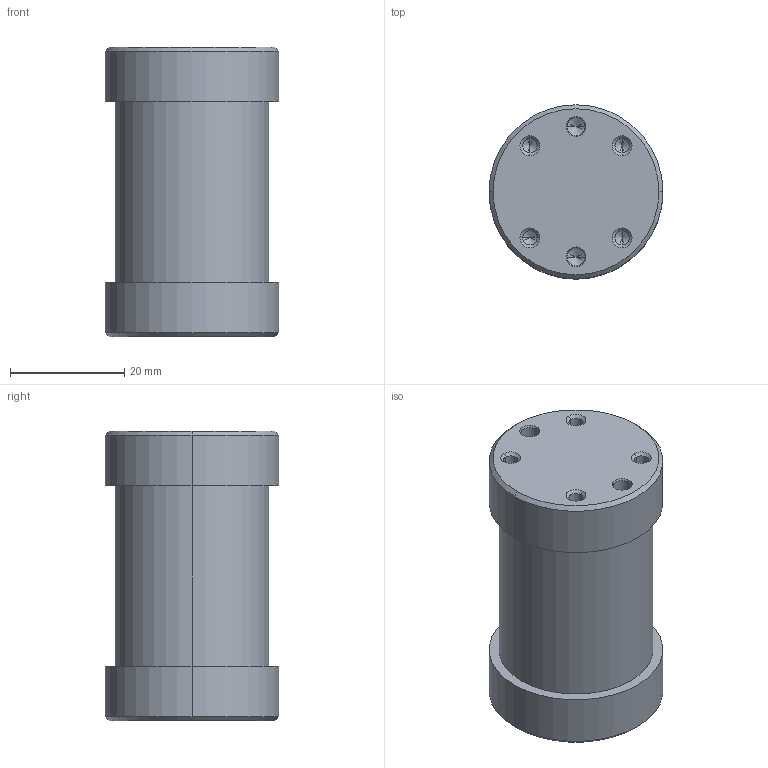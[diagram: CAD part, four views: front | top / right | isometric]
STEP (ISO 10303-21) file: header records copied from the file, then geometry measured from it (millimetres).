
FILE_DESCRIPTION (( 'STEP AP203' ), '1' );
FILE_NAME ('rst1.STEP', '2015-06-12T19:02:34', ( '' ), ( '' ), 'SwSTEP 2.0', 'SolidWorks 2013', '' );
FILE_SCHEMA (( 'CONFIG_CONTROL_DESIGN' ));
Length unit declared in the file: millimetre
Products named in the file (1): rst1
Bounding box: 30.5 x 30.5 x 50.8 mm (x, y, z)
Volume: 31472.7 mm3; surface area: 7033.7 mm2
Topology: 1 solids, 1 shells, 86 faces, 194 edges, 100 vertices
Faces by surface type: cone 52, cylinder 30, plane 4
Entity records: 2279 total; most frequent: DIRECTION 432, CARTESIAN_POINT 357, ORIENTED_EDGE 340, AXIS2_PLACEMENT_3D 175, EDGE_CURVE 170, EDGE_LOOP 100, VERTEX_POINT 100, CIRCLE 88
